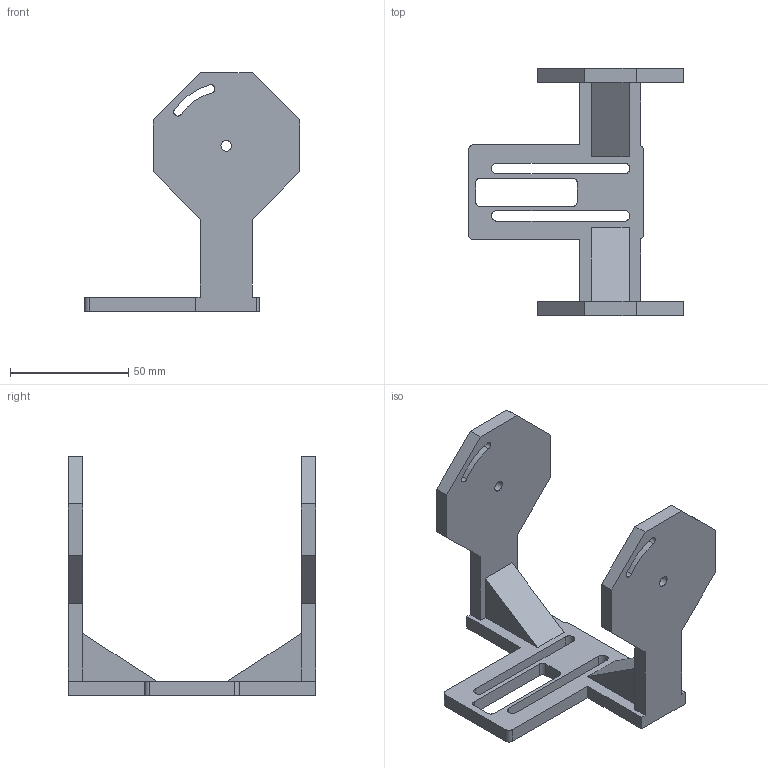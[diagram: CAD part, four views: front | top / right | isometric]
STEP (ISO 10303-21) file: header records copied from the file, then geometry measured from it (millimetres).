
FILE_DESCRIPTION(('Open CASCADE Model'),'2;1');
FILE_NAME('Open CASCADE Shape Model','2026-09-18T15:14:32',('Author'),( 'Open CASCADE'),'Open CASCADE STEP processor 7.9','Open CASCADE 7.9' ,'Unknown');
FILE_SCHEMA(('AUTOMOTIVE_DESIGN { 1 0 10303 214 1 1 1 1 }'));
Length unit declared in the file: millimetre
Products named in the file (1): Open CASCADE STEP translator 7.9 7
Bounding box: 91 x 104.6 x 101 mm (x, y, z)
Volume: 76006.6 mm3; surface area: 30390.4 mm2
Topology: 1 solids, 1 shells, 68 faces, 198 edges, 132 vertices
Faces by surface type: plane 46, cylinder 22
Full cylindrical faces by diameter (mm): 4.5 x2
Entity records: 4868 total; most frequent: CARTESIAN_POINT 983, DIRECTION 698, LINE 450, VECTOR 450, ORIENTED_EDGE 396, PCURVE 396, DEFINITIONAL_REPRESENTATION 396, EDGE_CURVE 198
